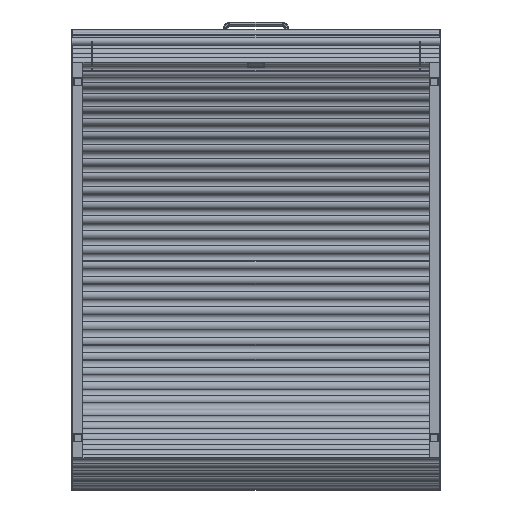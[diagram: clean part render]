
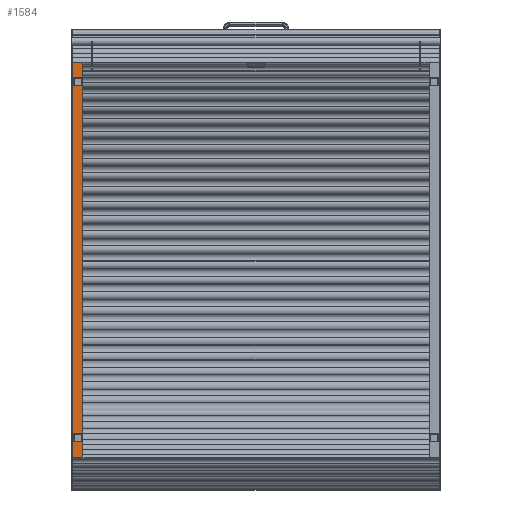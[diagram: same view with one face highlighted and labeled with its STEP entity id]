
A CAD part, front view. The second image highlights one B-rep face of the part: STEP entity #1584.
In plain terms, the highlighted planar face has unit normal (0, -1, 0).
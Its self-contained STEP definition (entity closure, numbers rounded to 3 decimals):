
#70 = VERTEX_POINT ( 'NONE', #14915 ) ;
#270 = CARTESIAN_POINT ( 'NONE',  ( 915., 150., -983.301 ) ) ;
#400 = DIRECTION ( 'NONE',  ( 1., 0., 0. ) ) ;
#449 = CARTESIAN_POINT ( 'NONE',  ( -915., 150., 981.182 ) ) ;
#521 = VERTEX_POINT ( 'NONE', #10084 ) ;
#591 = ORIENTED_EDGE ( 'NONE', *, *, #15468, .T. ) ;
#629 = ORIENTED_EDGE ( 'NONE', *, *, #15584, .T. ) ;
#726 = EDGE_CURVE ( 'NONE', #6895, #6260, #14152, .T. ) ;
#776 = VECTOR ( 'NONE', #7793, 1000. ) ;
#1159 = VECTOR ( 'NONE', #2116, 1000. ) ;
#1584 = ADVANCED_FACE ( 'NONE', ( #14114, #10204, #12804 ), #11346, .F. ) ;
#2060 = EDGE_CURVE ( 'NONE', #521, #8638, #10648, .T. ) ;
#2096 = EDGE_CURVE ( 'NONE', #13895, #13328, #10811, .T. ) ;
#2116 = DIRECTION ( 'NONE',  ( 0., 0., 1. ) ) ;
#2487 = EDGE_LOOP ( 'NONE', ( #4929, #8069, #13604, #591 ) ) ;
#2708 = VECTOR ( 'NONE', #10278, 1000. ) ;
#2772 = ORIENTED_EDGE ( 'NONE', *, *, #10339, .T. ) ;
#3204 = EDGE_LOOP ( 'NONE', ( #9699, #7312, #6077, #11531 ) ) ;
#3273 = VECTOR ( 'NONE', #14904, 1000. ) ;
#3338 = DIRECTION ( 'NONE',  ( 0., 0., -1. ) ) ;
#3423 = LINE ( 'NONE', #10869, #4792 ) ;
#3540 = VECTOR ( 'NONE', #3338, 1000. ) ;
#3755 = VECTOR ( 'NONE', #4595, 1000. ) ;
#4033 = CARTESIAN_POINT ( 'NONE',  ( -905., 150., 865. ) ) ;
#4077 = CARTESIAN_POINT ( 'NONE',  ( 915., 150., 981.591 ) ) ;
#4460 = VERTEX_POINT ( 'NONE', #13079 ) ;
#4506 = CARTESIAN_POINT ( 'NONE',  ( -905., 150., -865. ) ) ;
#4595 = DIRECTION ( 'NONE',  ( 1., 0., 0. ) ) ;
#4631 = ORIENTED_EDGE ( 'NONE', *, *, #7594, .F. ) ;
#4638 = CARTESIAN_POINT ( 'NONE',  ( -865., 150., -905. ) ) ;
#4792 = VECTOR ( 'NONE', #4803, 1000. ) ;
#4803 = DIRECTION ( 'NONE',  ( 0., 0., 1. ) ) ;
#4832 = VECTOR ( 'NONE', #14381, 1000. ) ;
#4929 = ORIENTED_EDGE ( 'NONE', *, *, #10423, .T. ) ;
#5092 = DIRECTION ( 'NONE',  ( 0., 0., 1. ) ) ;
#5145 = DIRECTION ( 'NONE',  ( 0., 1., 0. ) ) ;
#5295 = LINE ( 'NONE', #6456, #2708 ) ;
#5340 = CARTESIAN_POINT ( 'NONE',  ( -905., 150., 905. ) ) ;
#5494 = EDGE_CURVE ( 'NONE', #70, #521, #12601, .T. ) ;
#5909 = EDGE_CURVE ( 'NONE', #8638, #7729, #14525, .T. ) ;
#6002 = CARTESIAN_POINT ( 'NONE',  ( -865., 150., -865. ) ) ;
#6077 = ORIENTED_EDGE ( 'NONE', *, *, #2060, .T. ) ;
#6197 = ORIENTED_EDGE ( 'NONE', *, *, #726, .F. ) ;
#6260 = VERTEX_POINT ( 'NONE', #14541 ) ;
#6432 = CARTESIAN_POINT ( 'NONE',  ( -865., 150., 905. ) ) ;
#6456 = CARTESIAN_POINT ( 'NONE',  ( -905., 150., -905. ) ) ;
#6849 = CARTESIAN_POINT ( 'NONE',  ( -865., 150., -905. ) ) ;
#6895 = VERTEX_POINT ( 'NONE', #14806 ) ;
#7143 = LINE ( 'NONE', #7844, #14648 ) ;
#7312 = ORIENTED_EDGE ( 'NONE', *, *, #5494, .T. ) ;
#7594 = EDGE_CURVE ( 'NONE', #9465, #12211, #11507, .T. ) ;
#7729 = VERTEX_POINT ( 'NONE', #6849 ) ;
#7791 = CARTESIAN_POINT ( 'NONE',  ( -905., 150., -905. ) ) ;
#7793 = DIRECTION ( 'NONE',  ( -1., 0., 0. ) ) ;
#7844 = CARTESIAN_POINT ( 'NONE',  ( -865., 150., 905. ) ) ;
#8069 = ORIENTED_EDGE ( 'NONE', *, *, #2096, .T. ) ;
#8186 = VECTOR ( 'NONE', #14472, 1000. ) ;
#8638 = VERTEX_POINT ( 'NONE', #6002 ) ;
#8675 = EDGE_CURVE ( 'NONE', #13328, #4460, #7143, .T. ) ;
#8791 = LINE ( 'NONE', #4033, #3273 ) ;
#8978 = CARTESIAN_POINT ( 'NONE',  ( 915., 150., 981.182 ) ) ;
#9465 = VERTEX_POINT ( 'NONE', #13366 ) ;
#9699 = ORIENTED_EDGE ( 'NONE', *, *, #13020, .T. ) ;
#10084 = CARTESIAN_POINT ( 'NONE',  ( -905., 150., -865. ) ) ;
#10204 = FACE_BOUND ( 'NONE', #2487, .T. ) ;
#10278 = DIRECTION ( 'NONE',  ( -1., 0., 0. ) ) ;
#10339 = EDGE_CURVE ( 'NONE', #6895, #12211, #15834, .T. ) ;
#10423 = EDGE_CURVE ( 'NONE', #12593, #13895, #3423, .T. ) ;
#10648 = LINE ( 'NONE', #4506, #8186 ) ;
#10799 = LINE ( 'NONE', #449, #4832 ) ;
#10811 = LINE ( 'NONE', #15775, #3755 ) ;
#10869 = CARTESIAN_POINT ( 'NONE',  ( -905., 150., 905. ) ) ;
#11152 = VECTOR ( 'NONE', #400, 1000. ) ;
#11346 = PLANE ( 'NONE',  #12309 ) ;
#11507 = LINE ( 'NONE', #4077, #11152 ) ;
#11531 = ORIENTED_EDGE ( 'NONE', *, *, #5909, .T. ) ;
#11599 = CARTESIAN_POINT ( 'NONE',  ( -905., 150., 865. ) ) ;
#11911 = VECTOR ( 'NONE', #5092, 1000. ) ;
#12211 = VERTEX_POINT ( 'NONE', #15074 ) ;
#12244 = CARTESIAN_POINT ( 'NONE',  ( -860., 150., 981.591 ) ) ;
#12309 = AXIS2_PLACEMENT_3D ( 'NONE', #8978, #5145, #15171 ) ;
#12593 = VERTEX_POINT ( 'NONE', #11599 ) ;
#12601 = LINE ( 'NONE', #7791, #11911 ) ;
#12804 = FACE_OUTER_BOUND ( 'NONE', #13612, .T. ) ;
#13020 = EDGE_CURVE ( 'NONE', #7729, #70, #5295, .T. ) ;
#13079 = CARTESIAN_POINT ( 'NONE',  ( -865., 150., 865. ) ) ;
#13328 = VERTEX_POINT ( 'NONE', #6432 ) ;
#13366 = CARTESIAN_POINT ( 'NONE',  ( -915., 150., 981.591 ) ) ;
#13604 = ORIENTED_EDGE ( 'NONE', *, *, #8675, .T. ) ;
#13612 = EDGE_LOOP ( 'NONE', ( #2772, #4631, #629, #6197 ) ) ;
#13895 = VERTEX_POINT ( 'NONE', #5340 ) ;
#14114 = FACE_BOUND ( 'NONE', #3204, .T. ) ;
#14152 = LINE ( 'NONE', #270, #776 ) ;
#14381 = DIRECTION ( 'NONE',  ( 0., 0., -1. ) ) ;
#14472 = DIRECTION ( 'NONE',  ( 1., 0., 0. ) ) ;
#14525 = LINE ( 'NONE', #4638, #3540 ) ;
#14541 = CARTESIAN_POINT ( 'NONE',  ( -915., 150., -983.301 ) ) ;
#14648 = VECTOR ( 'NONE', #15180, 1000. ) ;
#14806 = CARTESIAN_POINT ( 'NONE',  ( -860., 150., -983.301 ) ) ;
#14904 = DIRECTION ( 'NONE',  ( -1., 0., 0. ) ) ;
#14915 = CARTESIAN_POINT ( 'NONE',  ( -905., 150., -905. ) ) ;
#15074 = CARTESIAN_POINT ( 'NONE',  ( -860., 150., 981.591 ) ) ;
#15171 = DIRECTION ( 'NONE',  ( 0., 0., 1. ) ) ;
#15180 = DIRECTION ( 'NONE',  ( 0., 0., -1. ) ) ;
#15468 = EDGE_CURVE ( 'NONE', #4460, #12593, #8791, .T. ) ;
#15584 = EDGE_CURVE ( 'NONE', #9465, #6260, #10799, .T. ) ;
#15775 = CARTESIAN_POINT ( 'NONE',  ( -905., 150., 905. ) ) ;
#15834 = LINE ( 'NONE', #12244, #1159 ) ;
